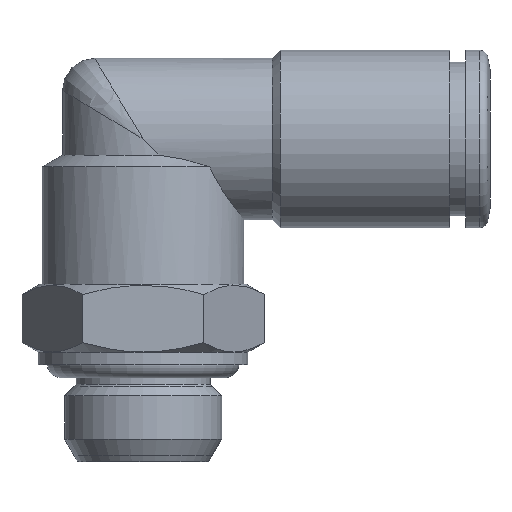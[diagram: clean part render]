
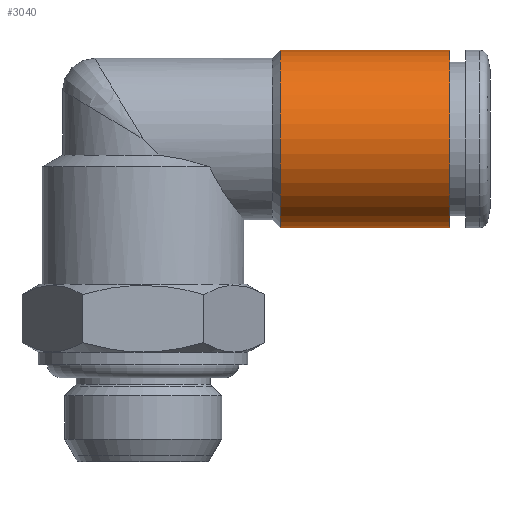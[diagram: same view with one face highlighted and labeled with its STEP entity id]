
A CAD part, front view. The second image highlights one B-rep face of the part: STEP entity #3040.
In plain terms, the highlighted cylindrical face has radius 5.5 mm (diameter 11 mm), a full revolution.
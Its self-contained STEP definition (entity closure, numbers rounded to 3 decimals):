
#3040=ADVANCED_FACE('', (#3050,#3060), #3070, .T.);
#8540=AXIS2_PLACEMENT_3D('Ax2Pl3d', #8550, #8560, #8570);
#9460=AXIS2_PLACEMENT_3D('Ax2Pl3d', #9470, #9480, #9490);
#9500=AXIS2_PLACEMENT_3D('Ax2Pl3d', #9510, #9520, #9530);
#8550=CARTESIAN_POINT('HicPkt', (32.754,11.921,
25.632));
#22580=CARTESIAN_POINT('', (32.754,11.921,31.132));
#9470=CARTESIAN_POINT('HicPkt', (32.754,11.921,
25.632));
#9510=CARTESIAN_POINT('HicPkt', (22.254,11.921,
25.632));
#22720=CARTESIAN_POINT('', (22.254,11.921,31.132));
#23330=CIRCLE('Circle', #8540, 5.5);
#23430=CIRCLE('Circle', #9500, 5.5);
#3070=CYLINDRICAL_SURFACE('Zyl', #9460, 5.5);
#8560=DIRECTION('Axis', (1.,0.,0.));
#8570=DIRECTION('RefDirection', (0.,-0.,-1.));
#9480=DIRECTION('Axis', (-1.,0.,0.))
;
#9490=DIRECTION('RefDirection', (0.,
0.,-1.));
#9520=DIRECTION('Axis', (1.,0.,0.));
#9530=DIRECTION('RefDirection', (0.,-0.,-1.));
#28060=EDGE_CURVE('', #28070, #28070, #23330, .T.);
#28440=EDGE_CURVE('', #28450, #28450, #23430, .T.);
#31790=EDGE_LOOP('Edge_loop', (#31800));
#31810=EDGE_LOOP('Edge_loop', (#31820));
#3060=FACE_BOUND('', #31810, .T.);
#3050=FACE_OUTER_BOUND('Face_outer_bound', #31790, .T.);
#31800=ORIENTED_EDGE('', *, *, #28440, .T.);
#31820=ORIENTED_EDGE('', *, *, #28060, .F.);
#28070=VERTEX_POINT('', #22580);
#28450=VERTEX_POINT('', #22720);
